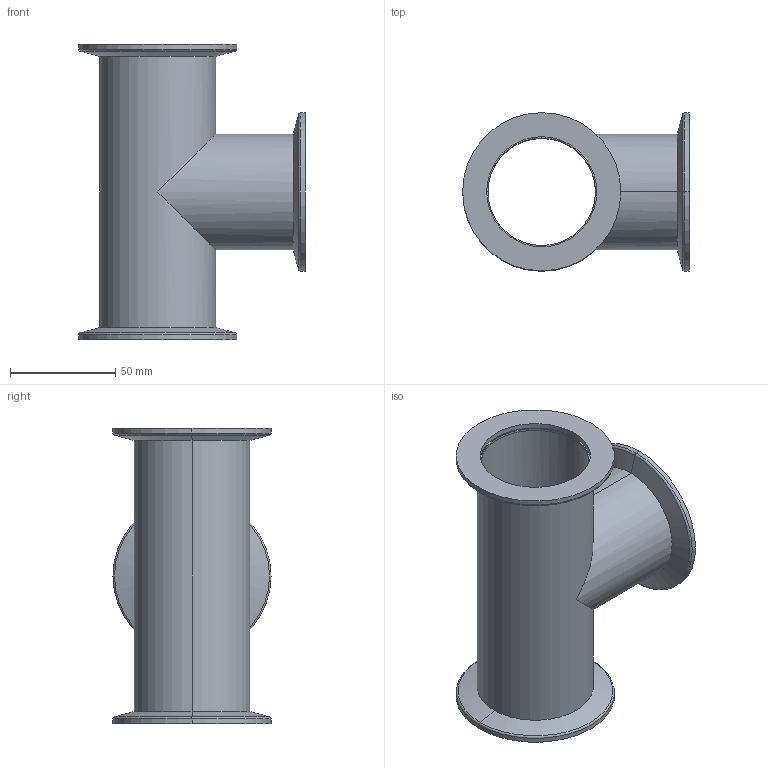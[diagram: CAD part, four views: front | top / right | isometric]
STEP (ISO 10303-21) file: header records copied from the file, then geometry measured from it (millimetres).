
FILE_DESCRIPTION (( 'STEP AP214' ), '1' );
FILE_NAME ('W3TS50.STEP', '2020-04-09T08:47:14', ( '' ), ( '' ), 'SwSTEP 2.0', 'SolidWorks 2018', '' );
FILE_SCHEMA (( 'AUTOMOTIVE_DESIGN' ));
Length unit declared in the file: millimetre
Products named in the file (1): W3TS50
Bounding box: 107.5 x 75 x 140 mm (x, y, z)
Volume: 84046.5 mm3; surface area: 76390.9 mm2
Topology: 5 solids, 5 shells, 60 faces, 132 edges, 82 vertices
Faces by surface type: cylinder 32, plane 16, torus 6, cone 6
Entity records: 1758 total; most frequent: CARTESIAN_POINT 323, DIRECTION 310, ORIENTED_EDGE 264, AXIS2_PLACEMENT_3D 133, EDGE_CURVE 132, VERTEX_POINT 82, CIRCLE 72, EDGE_LOOP 72
